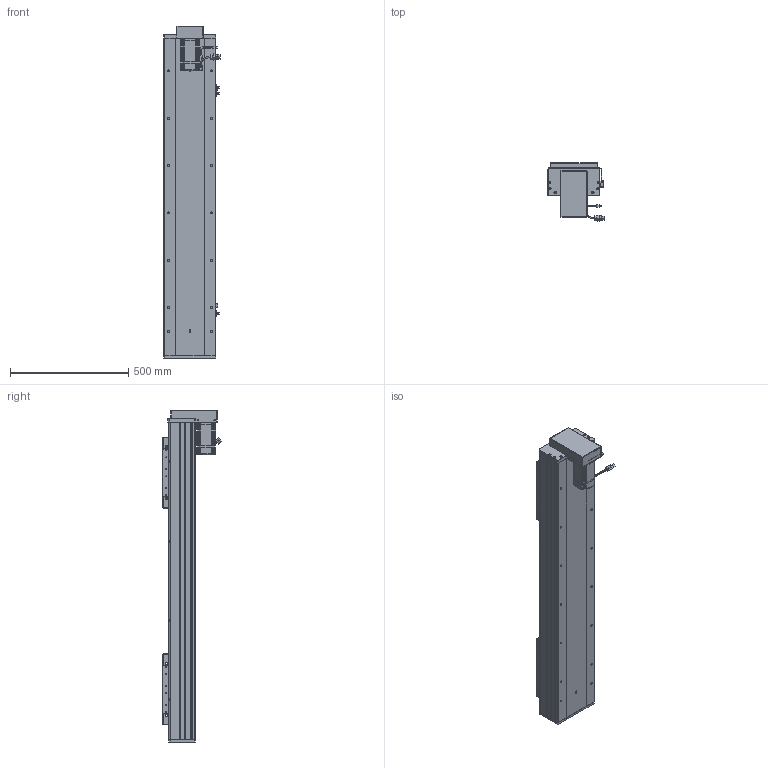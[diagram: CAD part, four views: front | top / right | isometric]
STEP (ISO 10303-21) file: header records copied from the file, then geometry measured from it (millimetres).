
FILE_DESCRIPTION (( 'STEP AP203' ), '1' );
FILE_NAME ('RY220F-L2525-800-BK-邧嶺.SLDASM_900.step', '2022-08-06T08:07:41', ( '' ), ( '' ), 'SwSTEP 2.0', 'SolidWorks 2016', '' );
FILE_SCHEMA (( 'CONFIG_CONTROL_DESIGN' ));
Length unit declared in the file: millimetre
Products named in the file (15): RY220F臏賑釱25-32佪裝; 侐源滅袉蝶; RY220F-蛌殏奻裔啣-800_900; RY220F綴裔啣; RY220F-滅鳥奻裔; 覜茼ん672; RY220F-祥凄詩湍-蛌殏-800_900; RY220狟殏萇儂假蚾啣; RY220F蛌殏菁釱-800-邧嶺_900; RY220F-詩湍揤踡輸; RY220F-672覜茼んえ; RY220F-L2525-800-BK-邧嶺.SLDASM_900; RY220狟殏萇儂欶; 怢湛750W_ECMA-CX0807ES; 滅袉蝶18-24
Assembly tree (24 placements, depth 2):
  RY220F-L2525-800-BK-邧嶺.SLDASM_900
    RY220F蛌殏菁釱-800-邧嶺_900
    RY220F-蛌殏奻裔啣-800_900  x2
    怢湛750W_ECMA-CX0807ES
    RY220F臏賑釱25-32佪裝  x2
    RY220F-滅鳥奻裔  x2
    滅袉蝶18-24  x3
    RY220F綴裔啣
    RY220F-祥凄詩湍-蛌殏-800_900
    RY220F-詩湍揤踡輸  x2
    覜茼ん672  x3
    RY220F-672覜茼んえ  x2
    侐源滅袉蝶  x2
    RY220狟殏萇儂假蚾啣
    RY220狟殏萇儂欶
Bounding box: 237.27 x 247.24 x 1403 mm (x, y, z)
Volume: 13934797.3 mm3; surface area: 3582917.7 mm2
Topology: 25 solids, 25 shells, 2763 faces, 7510 edges, 4647 vertices
Faces by surface type: cylinder 1226, plane 1062, cone 404, bspline 45, sphere 16, torus 10
Entity records: 68453 total; most frequent: CARTESIAN_POINT 18625, ORIENTED_EDGE 10082, DIRECTION 9765, EDGE_CURVE 5041, AXIS2_PLACEMENT_3D 3454, VERTEX_POINT 3263, VECTOR 2857, LINE 2857
